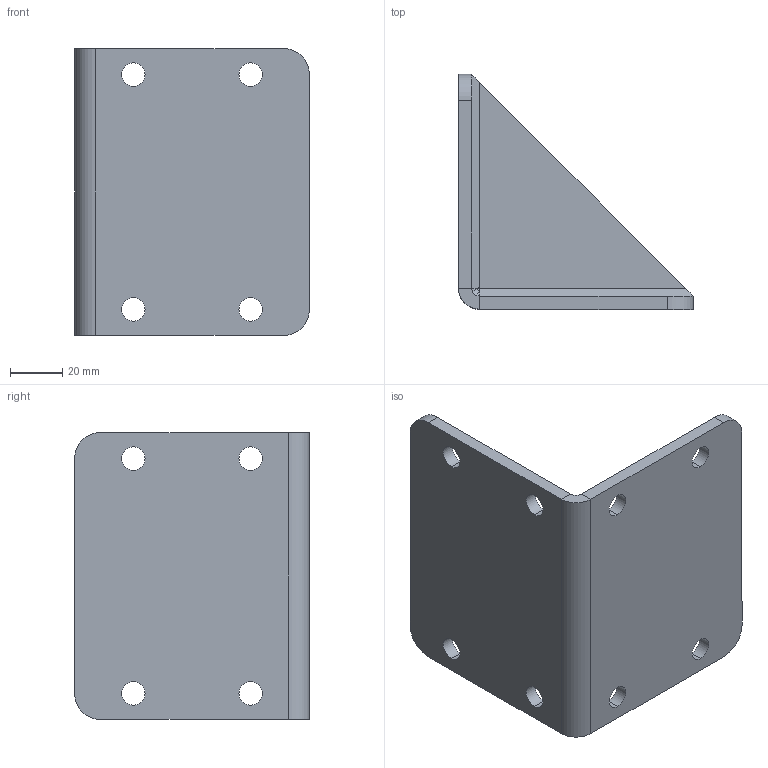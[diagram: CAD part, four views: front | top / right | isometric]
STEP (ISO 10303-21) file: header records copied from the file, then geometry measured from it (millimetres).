
FILE_DESCRIPTION (( 'STEP AP214' ), '1' );
FILE_NAME ('900.100.014.STEP', '2015-02-23T15:49:34', ( '' ), ( '' ), 'SwSTEP 2.0', 'SolidWorks 2012', '' );
FILE_SCHEMA (( 'AUTOMOTIVE_DESIGN' ));
Length unit declared in the file: millimetre
Products named in the file (1): 900.100.014
Bounding box: 90 x 90 x 110 mm (x, y, z)
Volume: 111516.9 mm3; surface area: 52785.1 mm2
Topology: 4 solids, 4 shells, 61 faces, 145 edges, 90 vertices
Faces by surface type: plane 35, cylinder 24, cone 2
Entity records: 1940 total; most frequent: DIRECTION 315, CARTESIAN_POINT 295, ORIENTED_EDGE 286, EDGE_CURVE 143, AXIS2_PLACEMENT_3D 110, VECTOR 95, LINE 95, VERTEX_POINT 90
